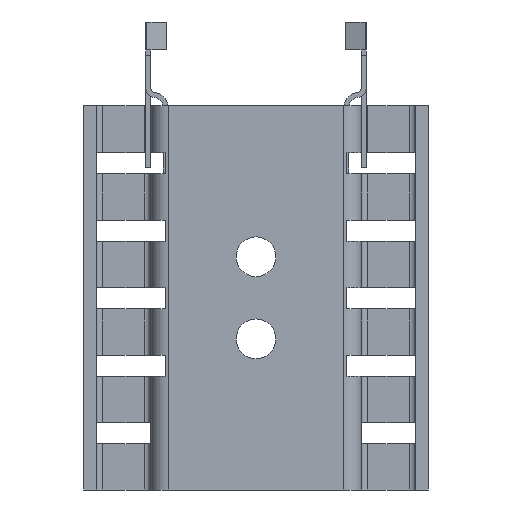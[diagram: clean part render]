
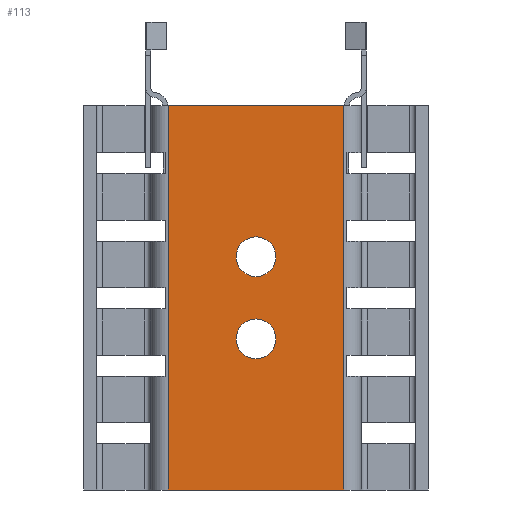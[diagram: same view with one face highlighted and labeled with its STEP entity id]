
A CAD part, front view. The second image highlights one B-rep face of the part: STEP entity #113.
In plain terms, the highlighted planar face has unit normal (0, -1, 0).
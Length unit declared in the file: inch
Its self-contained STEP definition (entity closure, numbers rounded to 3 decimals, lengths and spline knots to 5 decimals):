
#53 = EDGE_CURVE ( 'NONE', #6876, #2644, #5337, .T. ) ;
#113 = ADVANCED_FACE ( 'NONE', ( #4752, #5462, #7769 ), #1032, .F. ) ;
#275 = LINE ( 'NONE', #879, #5336 ) ;
#340 = VECTOR ( 'NONE', #7156, 39.37008 ) ;
#371 = DIRECTION ( 'NONE',  ( 1., 0., 0. ) ) ;
#376 = CARTESIAN_POINT ( 'NONE',  ( -0.33031, 0., 0.725 ) ) ;
#433 = DIRECTION ( 'NONE',  ( 1., 0., 0. ) ) ;
#628 = CARTESIAN_POINT ( 'NONE',  ( -0.33031, 0., -0.725 ) ) ;
#664 = VERTEX_POINT ( 'NONE', #2349 ) ;
#879 = CARTESIAN_POINT ( 'NONE',  ( -0.33031, 0., -0.725 ) ) ;
#976 = EDGE_CURVE ( 'NONE', #2644, #6876, #7033, .T. ) ;
#1032 = PLANE ( 'NONE',  #2681 ) ;
#1070 = ORIENTED_EDGE ( 'NONE', *, *, #5594, .T. ) ;
#1169 = VERTEX_POINT ( 'NONE', #628 ) ;
#1318 = EDGE_LOOP ( 'NONE', ( #1070, #7519 ) ) ;
#1441 = EDGE_CURVE ( 'NONE', #1169, #7644, #275, .T. ) ;
#1478 = LINE ( 'NONE', #8242, #340 ) ;
#1805 = AXIS2_PLACEMENT_3D ( 'NONE', #7982, #7315, #2565 ) ;
#1818 = CARTESIAN_POINT ( 'NONE',  ( 0.33031, 0., 0.725 ) ) ;
#2117 = DIRECTION ( 'NONE',  ( 0., 1., 0. ) ) ;
#2157 = ORIENTED_EDGE ( 'NONE', *, *, #53, .T. ) ;
#2233 = CARTESIAN_POINT ( 'NONE',  ( 0., 0., -0.15492 ) ) ;
#2349 = CARTESIAN_POINT ( 'NONE',  ( 0.33031, 0., 0.725 ) ) ;
#2373 = CARTESIAN_POINT ( 'NONE',  ( 0., 0., 0.15492 ) ) ;
#2539 = VERTEX_POINT ( 'NONE', #5355 ) ;
#2565 = DIRECTION ( 'NONE',  ( -1., 0., 0. ) ) ;
#2644 = VERTEX_POINT ( 'NONE', #4867 ) ;
#2681 = AXIS2_PLACEMENT_3D ( 'NONE', #376, #3043, #433 ) ;
#2774 = ORIENTED_EDGE ( 'NONE', *, *, #1441, .T. ) ;
#3043 = DIRECTION ( 'NONE',  ( 0., 1., 0. ) ) ;
#3082 = LINE ( 'NONE', #5100, #7234 ) ;
#3120 = DIRECTION ( 'NONE',  ( 0., 0., -1. ) ) ;
#3644 = EDGE_CURVE ( 'NONE', #5135, #1169, #1478, .T. ) ;
#3857 = LINE ( 'NONE', #1818, #5568 ) ;
#3992 = ORIENTED_EDGE ( 'NONE', *, *, #4025, .F. ) ;
#4025 = EDGE_CURVE ( 'NONE', #5135, #664, #3082, .T. ) ;
#4084 = EDGE_LOOP ( 'NONE', ( #2157, #7079 ) ) ;
#4152 = CIRCLE ( 'NONE', #6849, 0.075 ) ;
#4383 = DIRECTION ( 'NONE',  ( -1., 0., 0. ) ) ;
#4469 = ORIENTED_EDGE ( 'NONE', *, *, #5298, .F. ) ;
#4696 = CARTESIAN_POINT ( 'NONE',  ( 0., 0., 0.15492 ) ) ;
#4752 = FACE_OUTER_BOUND ( 'NONE', #8593, .T. ) ;
#4867 = CARTESIAN_POINT ( 'NONE',  ( 0.075, 0., 0.15492 ) ) ;
#5100 = CARTESIAN_POINT ( 'NONE',  ( -0.33031, 0., 0.725 ) ) ;
#5109 = CARTESIAN_POINT ( 'NONE',  ( 0.33031, 0., -0.725 ) ) ;
#5135 = VERTEX_POINT ( 'NONE', #5505 ) ;
#5296 = CIRCLE ( 'NONE', #1805, 0.075 ) ;
#5298 = EDGE_CURVE ( 'NONE', #664, #7644, #3857, .T. ) ;
#5336 = VECTOR ( 'NONE', #5671, 39.37008 ) ;
#5337 = CIRCLE ( 'NONE', #8580, 0.075 ) ;
#5355 = CARTESIAN_POINT ( 'NONE',  ( 0.075, 0., -0.15492 ) ) ;
#5452 = CARTESIAN_POINT ( 'NONE',  ( -0.075, 0., -0.15492 ) ) ;
#5462 = FACE_BOUND ( 'NONE', #1318, .T. ) ;
#5505 = CARTESIAN_POINT ( 'NONE',  ( -0.33031, 0., 0.725 ) ) ;
#5568 = VECTOR ( 'NONE', #3120, 39.37008 ) ;
#5585 = CARTESIAN_POINT ( 'NONE',  ( -0.075, 0., 0.15492 ) ) ;
#5594 = EDGE_CURVE ( 'NONE', #8244, #2539, #4152, .T. ) ;
#5671 = DIRECTION ( 'NONE',  ( 1., 0., 0. ) ) ;
#6849 = AXIS2_PLACEMENT_3D ( 'NONE', #2233, #7083, #4383 ) ;
#6876 = VERTEX_POINT ( 'NONE', #5585 ) ;
#6889 = AXIS2_PLACEMENT_3D ( 'NONE', #4696, #2117, #8186 ) ;
#6901 = ORIENTED_EDGE ( 'NONE', *, *, #3644, .T. ) ;
#6951 = DIRECTION ( 'NONE',  ( 0., 1., 0. ) ) ;
#7033 = CIRCLE ( 'NONE', #6889, 0.075 ) ;
#7079 = ORIENTED_EDGE ( 'NONE', *, *, #976, .T. ) ;
#7083 = DIRECTION ( 'NONE',  ( 0., 1., 0. ) ) ;
#7156 = DIRECTION ( 'NONE',  ( 0., 0., -1. ) ) ;
#7234 = VECTOR ( 'NONE', #371, 39.37008 ) ;
#7315 = DIRECTION ( 'NONE',  ( 0., 1., 0. ) ) ;
#7519 = ORIENTED_EDGE ( 'NONE', *, *, #7831, .T. ) ;
#7644 = VERTEX_POINT ( 'NONE', #5109 ) ;
#7769 = FACE_BOUND ( 'NONE', #4084, .T. ) ;
#7831 = EDGE_CURVE ( 'NONE', #2539, #8244, #5296, .T. ) ;
#7982 = CARTESIAN_POINT ( 'NONE',  ( 0., 0., -0.15492 ) ) ;
#8186 = DIRECTION ( 'NONE',  ( -1., 0., 0. ) ) ;
#8242 = CARTESIAN_POINT ( 'NONE',  ( -0.33031, 0., 0.725 ) ) ;
#8244 = VERTEX_POINT ( 'NONE', #5452 ) ;
#8304 = DIRECTION ( 'NONE',  ( -1., 0., 0. ) ) ;
#8580 = AXIS2_PLACEMENT_3D ( 'NONE', #2373, #6951, #8304 ) ;
#8593 = EDGE_LOOP ( 'NONE', ( #3992, #6901, #2774, #4469 ) ) ;
